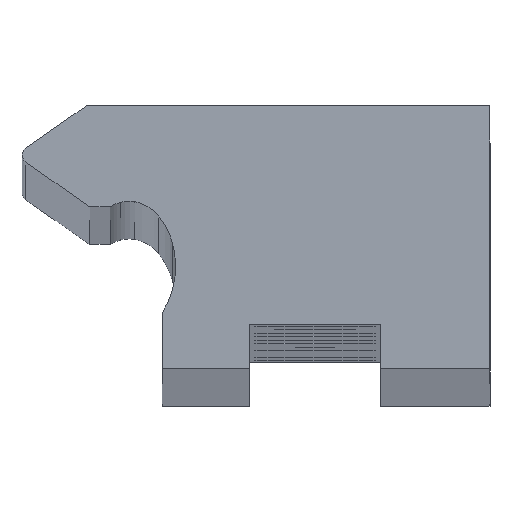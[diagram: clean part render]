
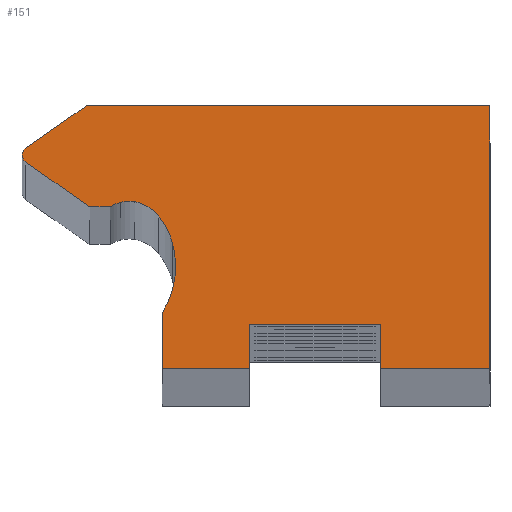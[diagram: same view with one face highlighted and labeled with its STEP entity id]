
A CAD part, top view. The second image highlights one B-rep face of the part: STEP entity #151.
In plain terms, the highlighted planar face has unit normal (0, 0, 1).
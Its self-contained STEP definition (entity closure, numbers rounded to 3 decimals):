
#151=ADVANCED_FACE('',(#338),#339,.F.);
#338=FACE_OUTER_BOUND('',#525,.T.);
#339=PLANE('',#526);
#525=EDGE_LOOP('',(#1119,#1120,#1121,#1122,#1123,#1124,#1125,#1126,#1127,#1128,#1129,#1130,#1131,#1132,#1133,#1134,#1135,#1136,#1137,#1138));
#526=AXIS2_PLACEMENT_3D('',#1139,#1140,#1141);
#1119=ORIENTED_EDGE('',*,*,#1333,.F.);
#1120=ORIENTED_EDGE('',*,*,#1284,.F.);
#1121=ORIENTED_EDGE('',*,*,#1288,.F.);
#1122=ORIENTED_EDGE('',*,*,#1291,.F.);
#1123=ORIENTED_EDGE('',*,*,#1294,.F.);
#1124=ORIENTED_EDGE('',*,*,#1297,.F.);
#1125=ORIENTED_EDGE('',*,*,#1300,.F.);
#1126=ORIENTED_EDGE('',*,*,#1302,.F.);
#1127=ORIENTED_EDGE('',*,*,#1147,.F.);
#1128=ORIENTED_EDGE('',*,*,#1305,.F.);
#1129=ORIENTED_EDGE('',*,*,#1308,.F.);
#1130=ORIENTED_EDGE('',*,*,#1311,.F.);
#1131=ORIENTED_EDGE('',*,*,#1314,.T.);
#1132=ORIENTED_EDGE('',*,*,#1317,.T.);
#1133=ORIENTED_EDGE('',*,*,#1320,.T.);
#1134=ORIENTED_EDGE('',*,*,#1323,.T.);
#1135=ORIENTED_EDGE('',*,*,#1324,.T.);
#1136=ORIENTED_EDGE('',*,*,#1145,.T.);
#1137=ORIENTED_EDGE('',*,*,#1328,.T.);
#1138=ORIENTED_EDGE('',*,*,#1331,.F.);
#1139=CARTESIAN_POINT('',(-2.649,12.835,1976.0));
#1140=DIRECTION('',(0.,0.0,-1.0));
#1141=DIRECTION('',(-1.0,0.0,0.));
#1145=EDGE_CURVE('',#1335,#1339,#1341,.T.);
#1147=EDGE_CURVE('',#1342,#1345,#1346,.T.);
#1284=EDGE_CURVE('',#1573,#1575,#1576,.T.);
#1288=EDGE_CURVE('',#1580,#1573,#1582,.T.);
#1291=EDGE_CURVE('',#1585,#1580,#1587,.T.);
#1294=EDGE_CURVE('',#1590,#1585,#1592,.T.);
#1297=EDGE_CURVE('',#1595,#1590,#1597,.T.);
#1300=EDGE_CURVE('',#1600,#1595,#1602,.T.);
#1302=EDGE_CURVE('',#1345,#1600,#1604,.T.);
#1305=EDGE_CURVE('',#1607,#1342,#1609,.T.);
#1308=EDGE_CURVE('',#1612,#1607,#1614,.T.);
#1311=EDGE_CURVE('',#1617,#1612,#1619,.T.);
#1314=EDGE_CURVE('',#1617,#1622,#1624,.T.);
#1317=EDGE_CURVE('',#1622,#1627,#1629,.T.);
#1320=EDGE_CURVE('',#1627,#1632,#1634,.T.);
#1323=EDGE_CURVE('',#1632,#1637,#1639,.T.);
#1324=EDGE_CURVE('',#1637,#1335,#1640,.T.);
#1328=EDGE_CURVE('',#1339,#1644,#1646,.T.);
#1331=EDGE_CURVE('',#1649,#1644,#1651,.T.);
#1333=EDGE_CURVE('',#1575,#1649,#1653,.T.);
#1335=VERTEX_POINT('',#1655);
#1339=VERTEX_POINT('',#1660);
#1341=CIRCLE('',#1663,8.241);
#1342=VERTEX_POINT('',#1664);
#1345=VERTEX_POINT('',#1668);
#1346=CIRCLE('',#1669,0.76);
#1573=VERTEX_POINT('',#1942);
#1575=VERTEX_POINT('',#1945);
#1576=LINE('',#1946,#1947);
#1580=VERTEX_POINT('',#1953);
#1582=LINE('',#1956,#1957);
#1585=VERTEX_POINT('',#1961);
#1587=LINE('',#1964,#1965);
#1590=VERTEX_POINT('',#1969);
#1592=LINE('',#1972,#1973);
#1595=VERTEX_POINT('',#1977);
#1597=LINE('',#1980,#1981);
#1600=VERTEX_POINT('',#1985);
#1602=LINE('',#1988,#1989);
#1604=LINE('',#1992,#1993);
#1607=VERTEX_POINT('',#1996);
#1609=CIRCLE('',#1999,0.76);
#1612=VERTEX_POINT('',#2003);
#1614=LINE('',#2006,#2007);
#1617=VERTEX_POINT('',#2011);
#1619=LINE('',#2014,#2015);
#1622=VERTEX_POINT('',#2018);
#1624=CIRCLE('',#2021,3.291);
#1627=VERTEX_POINT('',#2024);
#1629=CIRCLE('',#2027,3.033);
#1632=VERTEX_POINT('',#2030);
#1634=CIRCLE('',#2033,3.538);
#1637=VERTEX_POINT('',#2036);
#1639=CIRCLE('',#2039,6.026);
#1640=CIRCLE('',#2040,8.241);
#1644=VERTEX_POINT('',#2044);
#1646=CIRCLE('',#2047,7.489);
#1649=VERTEX_POINT('',#2051);
#1651=LINE('',#2054,#2055);
#1653=LINE('',#2058,#2059);
#1655=CARTESIAN_POINT('',(-12.758,9.296,1976.0));
#1660=CARTESIAN_POINT('',(-12.813,8.342,1976.0));
#1663=AXIS2_PLACEMENT_3D('',#2065,#2066,#2067);
#1664=CARTESIAN_POINT('',(-26.805,19.5,1976.0));
#1668=CARTESIAN_POINT('',(-26.481,20.123,1976.0));
#1669=AXIS2_PLACEMENT_3D('',#2069,#2070,#2071);
#1942=CARTESIAN_POINT('',(-6.,4.0,1976.0));
#1945=CARTESIAN_POINT('',(-6.,0.0,1976.0));
#1946=CARTESIAN_POINT('',(-6.,4.0,1976.0));
#1947=VECTOR('',#2386,1.0);
#1953=CARTESIAN_POINT('',(6.,4.0,1976.0));
#1956=CARTESIAN_POINT('',(6.,4.0,1976.0));
#1957=VECTOR('',#2390,1.0);
#1961=CARTESIAN_POINT('',(6.,0.0,1976.0));
#1964=CARTESIAN_POINT('',(6.,0.0,1976.0));
#1965=VECTOR('',#2393,1.0);
#1969=CARTESIAN_POINT('',(16.,0.0,1976.0));
#1972=CARTESIAN_POINT('',(16.,0.0,1976.0));
#1973=VECTOR('',#2396,1.0);
#1977=CARTESIAN_POINT('',(16.,24.0,1976.0));
#1980=CARTESIAN_POINT('',(16.,24.0,1976.0));
#1981=VECTOR('',#2399,1.0);
#1985=CARTESIAN_POINT('',(-20.943,24.0,1976.0));
#1988=CARTESIAN_POINT('',(-20.943,24.0,1976.0));
#1989=VECTOR('',#2402,1.0);
#1992=CARTESIAN_POINT('',(-26.481,20.123,1976.0));
#1993=VECTOR('',#2404,1.0);
#1996=CARTESIAN_POINT('',(-26.481,18.877,1976.0));
#1999=AXIS2_PLACEMENT_3D('',#2409,#2410,#2411);
#2003=CARTESIAN_POINT('',(-20.629,14.78,1976.0));
#2006=CARTESIAN_POINT('',(-20.629,14.78,1976.0));
#2007=VECTOR('',#2414,1.0);
#2011=CARTESIAN_POINT('',(-18.711,14.78,1976.0));
#2014=CARTESIAN_POINT('',(-18.711,14.78,1976.0));
#2015=VECTOR('',#2417,1.0);
#2018=CARTESIAN_POINT('',(-17.788,15.186,1976.0));
#2021=AXIS2_PLACEMENT_3D('',#2422,#2423,#2424);
#2024=CARTESIAN_POINT('',(-16.503,15.249,1976.0));
#2027=AXIS2_PLACEMENT_3D('',#2429,#2430,#2431);
#2030=CARTESIAN_POINT('',(-14.318,13.937,1976.0));
#2033=AXIS2_PLACEMENT_3D('',#2436,#2437,#2438);
#2036=CARTESIAN_POINT('',(-13.022,11.368,1976.0));
#2039=AXIS2_PLACEMENT_3D('',#2443,#2444,#2445);
#2040=AXIS2_PLACEMENT_3D('',#2446,#2447,#2448);
#2044=CARTESIAN_POINT('',(-14.,5.05,1976.0));
#2047=AXIS2_PLACEMENT_3D('',#2456,#2457,#2458);
#2051=CARTESIAN_POINT('',(-14.,0.0,1976.0));
#2054=CARTESIAN_POINT('',(-14.,0.0,1976.0));
#2055=VECTOR('',#2461,1.0);
#2058=CARTESIAN_POINT('',(-6.,0.0,1976.0));
#2059=VECTOR('',#2463,1.0);
#2065=CARTESIAN_POINT('',(-20.999,9.296,1976.0));
#2066=DIRECTION('',(0.,0.0,-1.0));
#2067=DIRECTION('',(-1.0,0.0,0.));
#2069=CARTESIAN_POINT('',(-26.045,19.5,1976.0));
#2070=DIRECTION('',(0.,0.0,-1.0));
#2071=DIRECTION('',(-1.0,0.0,0.));
#2386=DIRECTION('',(0.0,-1.0,-0.0));
#2390=DIRECTION('',(-1.0,0.0,0.));
#2393=DIRECTION('',(0.0,1.0,0.0));
#2396=DIRECTION('',(-1.0,0.0,0.));
#2399=DIRECTION('',(0.0,-1.0,-0.0));
#2402=DIRECTION('',(1.0,0.0,0.));
#2404=DIRECTION('',(0.819,0.574,0.));
#2409=CARTESIAN_POINT('',(-26.045,19.5,1976.0));
#2410=DIRECTION('',(0.,0.0,-1.0));
#2411=DIRECTION('',(-1.0,0.0,0.));
#2414=DIRECTION('',(-0.819,0.574,0.));
#2417=DIRECTION('',(-1.0,0.0,0.));
#2422=CARTESIAN_POINT('',(-16.941,12.006,1976.0));
#2423=DIRECTION('',(0.,0.0,-1.0));
#2424=DIRECTION('',(-1.0,0.0,0.));
#2429=CARTESIAN_POINT('',(-17.,12.256,1976.0));
#2430=DIRECTION('',(0.,0.0,-1.0));
#2431=DIRECTION('',(-1.0,0.0,0.));
#2436=CARTESIAN_POINT('',(-17.109,11.763,1976.0));
#2437=DIRECTION('',(0.,0.0,-1.0));
#2438=DIRECTION('',(-1.0,0.0,0.));
#2443=CARTESIAN_POINT('',(-18.896,10.017,1976.0));
#2444=DIRECTION('',(0.,0.0,-1.0));
#2445=DIRECTION('',(-1.0,0.0,0.));
#2446=CARTESIAN_POINT('',(-20.999,9.296,1976.0));
#2447=DIRECTION('',(0.,0.0,-1.0));
#2448=DIRECTION('',(-1.0,0.0,0.));
#2456=CARTESIAN_POINT('',(-20.257,9.166,1976.0));
#2457=DIRECTION('',(0.,0.0,-1.0));
#2458=DIRECTION('',(-1.0,0.0,0.));
#2461=DIRECTION('',(0.0,1.0,0.0));
#2463=DIRECTION('',(-1.0,0.0,0.));
